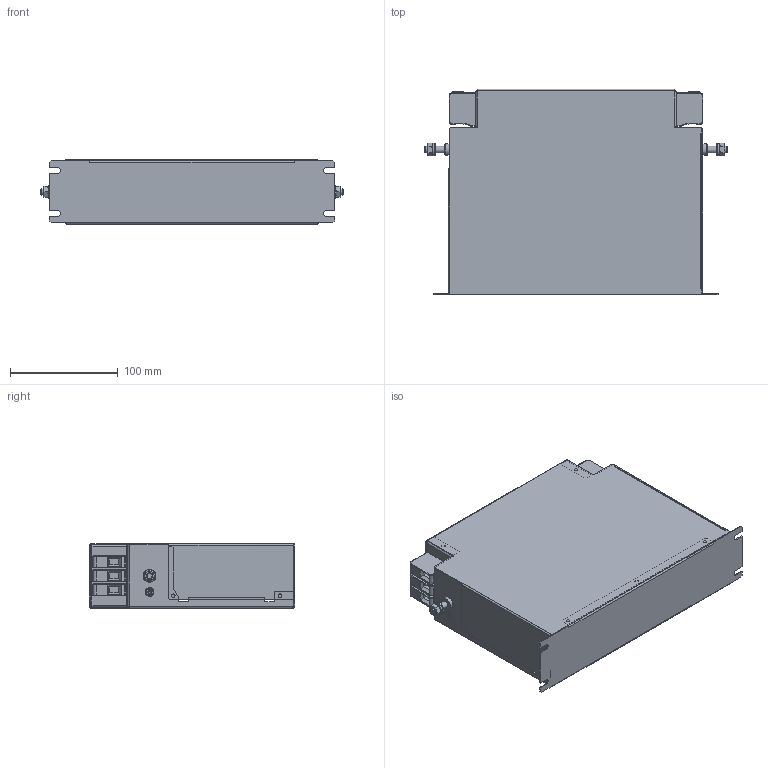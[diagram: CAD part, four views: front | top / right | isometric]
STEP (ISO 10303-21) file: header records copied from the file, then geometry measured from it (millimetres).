
FILE_DESCRIPTION(/* description */ ('raw material description'),/* implementation_level */ '2;1');
FILE_NAME(/* name */ 'C:\Users\Oliver.Volic\OneDrive - Schaffner EMV AG\Projekte\STEP\Wanda\FN3288IT-40-33.stp',/* time_stamp */ '2018-06-28T10:55:36+02:00',/* author */ ('Oliver.Volic'),/* organization */ ('Schaffner EMV AG'),/* preprocessor_version */ 'ST-DEVELOPER v16.5',/* originating_system */ 'Autodesk Inventor 2017',/* authorisation */ '');
FILE_SCHEMA (('AUTOMOTIVE_DESIGN { 1 0 10303 214 3 1 1 }'));
Length unit declared in the file: millimetre
Products named in the file (1): FN3288IT-40-33
Bounding box: 280.86 x 191.05 x 60 mm (x, y, z)
Volume: 189339.4 mm3; surface area: 300833.1 mm2
Topology: 1 solids, 11 shells, 1435 faces, 3511 edges, 2065 vertices
Faces by surface type: plane 854, cylinder 367, torus 81, sphere 72, bspline 31, cone 30
Full cylindrical faces by diameter (mm): 3.3 x13, 5.1 x6, 5.459 x2, 6 x4, 6.4 x2, 7 x2, 8 x2, 8.7 x4, 10 x6, 11.05 x2, 12 x2
Entity records: 42724 total; most frequent: CARTESIAN_POINT 8123, DIRECTION 6905, ORIENTED_EDGE 6734, EDGE_CURVE 3360, LINE 2381, VECTOR 2381, AXIS2_PLACEMENT_3D 2262, VERTEX_POINT 2046
